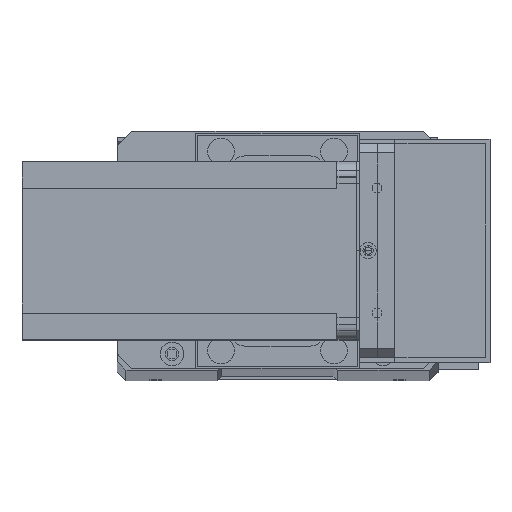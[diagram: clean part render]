
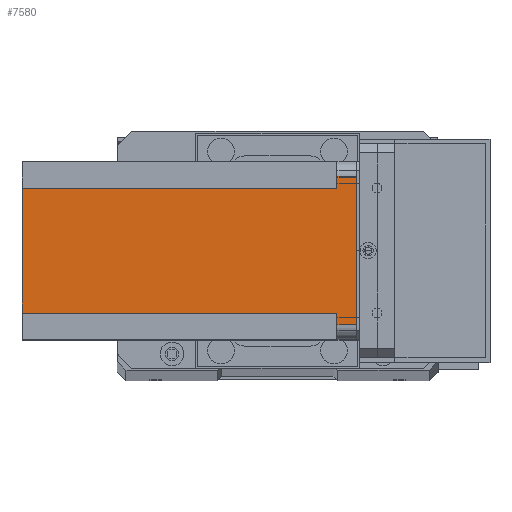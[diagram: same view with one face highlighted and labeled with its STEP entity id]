
A CAD part, top view. The second image highlights one B-rep face of the part: STEP entity #7580.
In plain terms, the highlighted planar face has unit normal (0, 0, 1) as drawn and (1, 0, 0) by its records, which use the part's own axes.
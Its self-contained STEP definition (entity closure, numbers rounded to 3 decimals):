
#147 = LINE ( 'NONE', #31397, #26394 ) ;
#259 = EDGE_CURVE ( 'NONE', #14203, #23766, #27007, .T. ) ;
#547 = VERTEX_POINT ( 'NONE', #18699 ) ;
#2202 = EDGE_LOOP ( 'NONE', ( #8885, #15560, #5570, #13569, #24728, #7516, #20469, #26611 ) ) ;
#3299 = DIRECTION ( 'NONE',  ( 0., 0., -1. ) ) ;
#3562 = LINE ( 'NONE', #19795, #10304 ) ;
#3820 = CARTESIAN_POINT ( 'NONE',  ( 60., 9., -6.5 ) ) ;
#5570 = ORIENTED_EDGE ( 'NONE', *, *, #32075, .F. ) ;
#5632 = CARTESIAN_POINT ( 'NONE',  ( 60., 5., -6.5 ) ) ;
#7059 = CARTESIAN_POINT ( 'NONE',  ( 60., 51., -112.5 ) ) ;
#7330 = PLANE ( 'NONE',  #25839 ) ;
#7400 = LINE ( 'NONE', #12758, #13402 ) ;
#7516 = ORIENTED_EDGE ( 'NONE', *, *, #9797, .F. ) ;
#7580 = ADVANCED_FACE ( 'NONE', ( #19080 ), #7330, .T. ) ;
#7854 = VECTOR ( 'NONE', #30172, 1000. ) ;
#8122 = VECTOR ( 'NONE', #12537, 1000. ) ;
#8885 = ORIENTED_EDGE ( 'NONE', *, *, #28128, .F. ) ;
#9797 = EDGE_CURVE ( 'NONE', #14203, #14370, #7400, .T. ) ;
#9901 = VERTEX_POINT ( 'NONE', #5632 ) ;
#9910 = DIRECTION ( 'NONE',  ( 0., 1., 0. ) ) ;
#9995 = CARTESIAN_POINT ( 'NONE',  ( 60., 0., -6.5 ) ) ;
#10207 = DIRECTION ( 'NONE',  ( 0., 0., 1. ) ) ;
#10304 = VECTOR ( 'NONE', #27272, 1000. ) ;
#10701 = CARTESIAN_POINT ( 'NONE',  ( 60., 9., -112.5 ) ) ;
#11482 = EDGE_CURVE ( 'NONE', #22160, #23766, #147, .T. ) ;
#12537 = DIRECTION ( 'NONE',  ( 0., -1., 0. ) ) ;
#12758 = CARTESIAN_POINT ( 'NONE',  ( 60., 9., -112.5 ) ) ;
#13402 = VECTOR ( 'NONE', #10207, 1000. ) ;
#13569 = ORIENTED_EDGE ( 'NONE', *, *, #25442, .T. ) ;
#14203 = VERTEX_POINT ( 'NONE', #10701 ) ;
#14370 = VERTEX_POINT ( 'NONE', #3820 ) ;
#15560 = ORIENTED_EDGE ( 'NONE', *, *, #18596, .T. ) ;
#16176 = DIRECTION ( 'NONE',  ( 0., 0., -1. ) ) ;
#17632 = EDGE_CURVE ( 'NONE', #14370, #9901, #26270, .T. ) ;
#18596 = EDGE_CURVE ( 'NONE', #23146, #547, #3562, .T. ) ;
#18699 = CARTESIAN_POINT ( 'NONE',  ( 60., 55., 0. ) ) ;
#18727 = VECTOR ( 'NONE', #32903, 1000. ) ;
#19080 = FACE_OUTER_BOUND ( 'NONE', #2202, .T. ) ;
#19441 = VECTOR ( 'NONE', #27915, 1000. ) ;
#19795 = CARTESIAN_POINT ( 'NONE',  ( 60., 55., -112.5 ) ) ;
#20469 = ORIENTED_EDGE ( 'NONE', *, *, #259, .T. ) ;
#21304 = LINE ( 'NONE', #26048, #22098 ) ;
#21430 = LINE ( 'NONE', #27597, #7854 ) ;
#22098 = VECTOR ( 'NONE', #3299, 1000. ) ;
#22160 = VERTEX_POINT ( 'NONE', #23278 ) ;
#23146 = VERTEX_POINT ( 'NONE', #24985 ) ;
#23278 = CARTESIAN_POINT ( 'NONE',  ( 60., 51., -6.5 ) ) ;
#23766 = VERTEX_POINT ( 'NONE', #7059 ) ;
#24190 = CARTESIAN_POINT ( 'NONE',  ( 60., 5., 0. ) ) ;
#24728 = ORIENTED_EDGE ( 'NONE', *, *, #17632, .F. ) ;
#24985 = CARTESIAN_POINT ( 'NONE',  ( 60., 55., -6.5 ) ) ;
#25113 = DIRECTION ( 'NONE',  ( 1., 0., 0. ) ) ;
#25442 = EDGE_CURVE ( 'NONE', #28044, #9901, #21304, .T. ) ;
#25839 = AXIS2_PLACEMENT_3D ( 'NONE', #27563, #25113, #9910 ) ;
#26048 = CARTESIAN_POINT ( 'NONE',  ( 60., 5., -112.5 ) ) ;
#26270 = LINE ( 'NONE', #9995, #18727 ) ;
#26394 = VECTOR ( 'NONE', #16176, 1000. ) ;
#26611 = ORIENTED_EDGE ( 'NONE', *, *, #11482, .F. ) ;
#27007 = LINE ( 'NONE', #28588, #19441 ) ;
#27272 = DIRECTION ( 'NONE',  ( 0., 0., 1. ) ) ;
#27563 = CARTESIAN_POINT ( 'NONE',  ( 60., 0., -112.5 ) ) ;
#27597 = CARTESIAN_POINT ( 'NONE',  ( 60., 0., 0. ) ) ;
#27735 = CARTESIAN_POINT ( 'NONE',  ( 60., 60., -6.5 ) ) ;
#27915 = DIRECTION ( 'NONE',  ( 0., 1., 0. ) ) ;
#28044 = VERTEX_POINT ( 'NONE', #24190 ) ;
#28128 = EDGE_CURVE ( 'NONE', #23146, #22160, #28426, .T. ) ;
#28426 = LINE ( 'NONE', #27735, #8122 ) ;
#28588 = CARTESIAN_POINT ( 'NONE',  ( 60., 0., -112.5 ) ) ;
#30172 = DIRECTION ( 'NONE',  ( 0., 1., 0. ) ) ;
#31397 = CARTESIAN_POINT ( 'NONE',  ( 60., 51., -112.5 ) ) ;
#32075 = EDGE_CURVE ( 'NONE', #28044, #547, #21430, .T. ) ;
#32903 = DIRECTION ( 'NONE',  ( 0., -1., 0. ) ) ;
